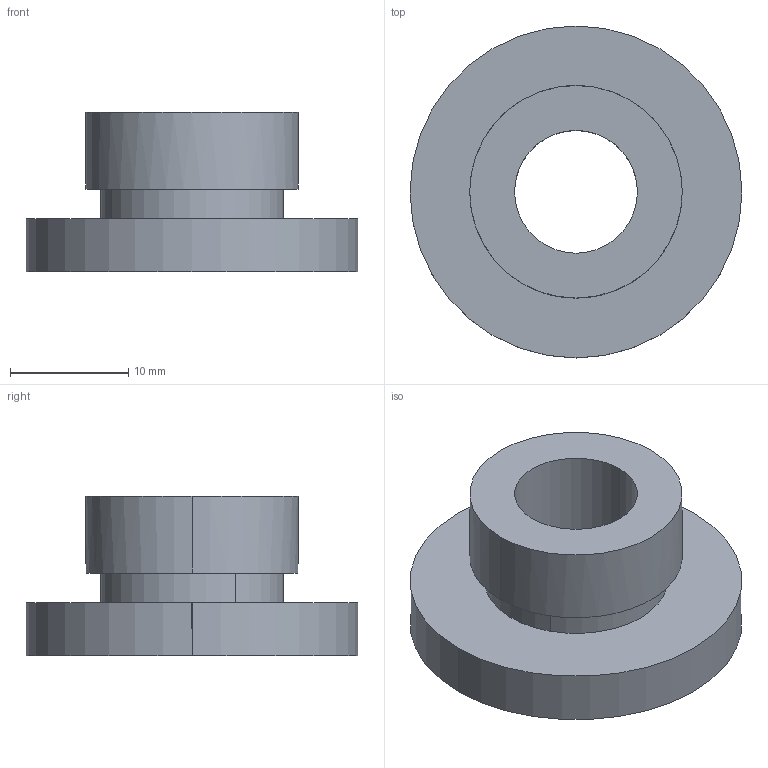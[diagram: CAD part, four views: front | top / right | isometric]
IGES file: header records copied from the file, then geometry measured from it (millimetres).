
Start section: START RECORD GO HERE.
Global section: file name: Ring.igs; native system: DASSAULT SYSTEMES CATIA V5 R21 - www.3ds.com; preprocessor: CATIA Version 5 Release 21 SP 6 ; author: ilya; organization: KAA-PC; date: 20161106.142850; units: millimetre
Bounding box: 28.1 x 28.1 x 13.5 mm (x, y, z)
Surface area: 2529.6 mm2 (no closed solid volume)
Topology: 0 solids, 0 shells, 12 faces, 52 edges, 52 vertices
Faces by surface type: revolution 8, plane 4
